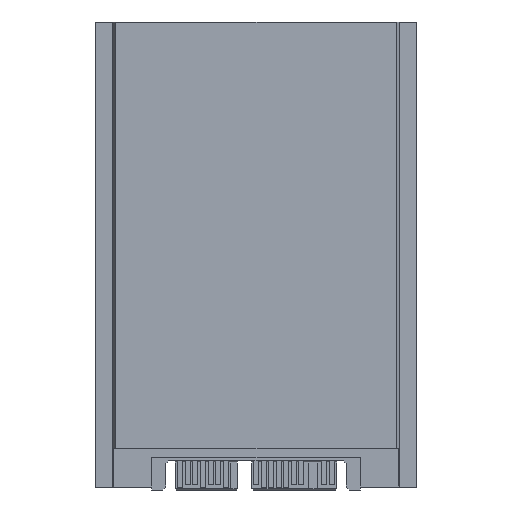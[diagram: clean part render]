
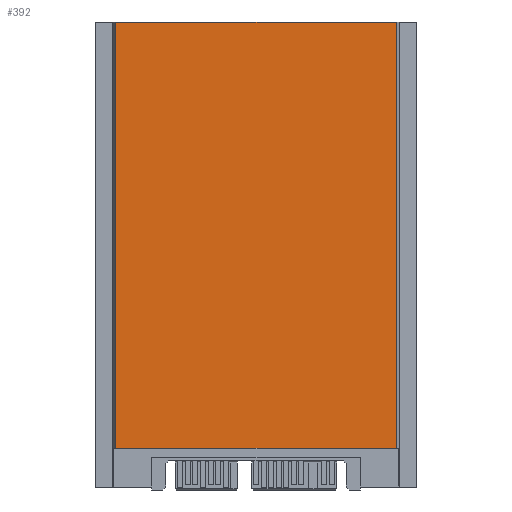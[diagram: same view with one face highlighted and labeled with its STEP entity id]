
A CAD part, left-side view. The second image highlights one B-rep face of the part: STEP entity #392.
In plain terms, the highlighted planar face has unit normal (-1, 0, 0).
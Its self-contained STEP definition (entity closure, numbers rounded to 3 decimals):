
#392=ADVANCED_FACE('',(#749),#3435,.T.);
#749=FACE_OUTER_BOUND('',#1106,.F.);
#1106=EDGE_LOOP('',(#1485,#1486,#1487,#1488));
#1485=ORIENTED_EDGE('',*,*,#5912,.T.);
#1486=ORIENTED_EDGE('',*,*,#5952,.T.);
#1487=ORIENTED_EDGE('',*,*,#5923,.T.);
#1488=ORIENTED_EDGE('',*,*,#5909,.T.);
#3435=PLANE('',#9479);
#5909=EDGE_CURVE('',#9464,#9468,#6888,.T.);
#5912=EDGE_CURVE('',#9468,#9461,#6891,.T.);
#5923=EDGE_CURVE('',#9452,#9464,#6902,.T.);
#5952=EDGE_CURVE('',#9461,#9452,#6931,.T.);
#6888=LINE('',#12180,#7867);
#6891=LINE('',#12183,#7870);
#6902=LINE('',#12194,#7881);
#6931=LINE('',#12223,#7910);
#7867=VECTOR('',#9846,47.019);
#7870=VECTOR('',#9849,71.5);
#7881=VECTOR('',#9860,71.5);
#7910=VECTOR('',#9889,47.019);
#9452=VERTEX_POINT('',#12148);
#9461=VERTEX_POINT('',#12157);
#9464=VERTEX_POINT('',#12160);
#9468=VERTEX_POINT('',#12164);
#9479=AXIS2_PLACEMENT_3D('',#13152,#10819,#10820);
#9846=DIRECTION('',(0.,1.,0.));
#9849=DIRECTION('',(0.,0.,1.));
#9860=DIRECTION('',(0.,0.,-1.));
#9889=DIRECTION('',(0.,-1.,0.));
#10819=DIRECTION('',(-1.,0.,0.));
#10820=DIRECTION('',(0.,1.,0.));
#12148=CARTESIAN_POINT('',(-7.625,295.698,-106.026));
#12157=CARTESIAN_POINT('',(-7.625,342.716,-106.026));
#12160=CARTESIAN_POINT('',(-7.625,295.698,-177.526));
#12164=CARTESIAN_POINT('',(-7.625,342.716,-177.526));
#12180=CARTESIAN_POINT('',(-7.625,295.698,-177.526));
#12183=CARTESIAN_POINT('',(-7.625,342.716,-177.526));
#12194=CARTESIAN_POINT('',(-7.625,295.698,-106.026));
#12223=CARTESIAN_POINT('',(-7.625,342.716,-106.026));
#13152=CARTESIAN_POINT('',(-7.625,291.427,-105.246));
